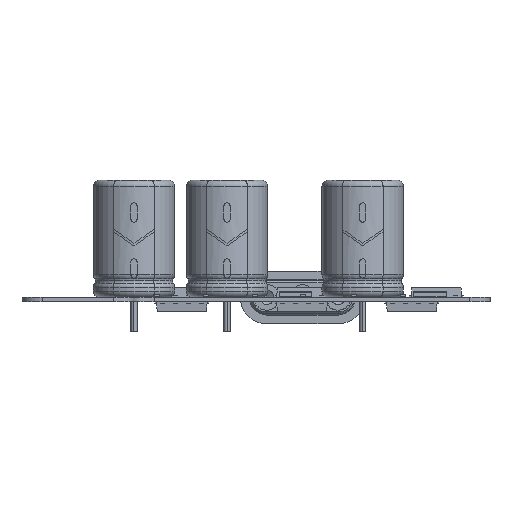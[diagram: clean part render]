
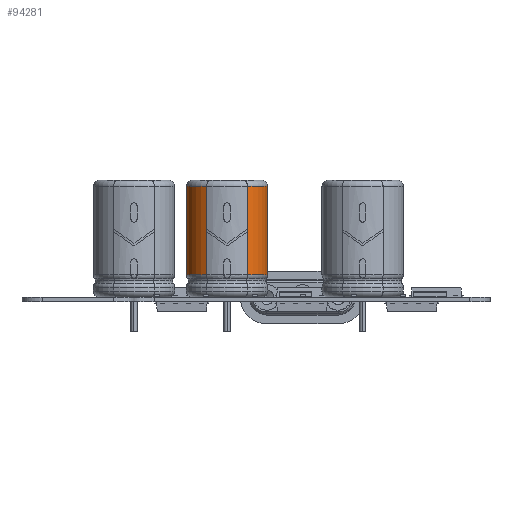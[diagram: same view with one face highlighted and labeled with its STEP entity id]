
A CAD part, left-side view. The second image highlights one B-rep face of the part: STEP entity #94281.
In plain terms, the highlighted cylindrical face has radius 4 mm (diameter 8 mm), a partial arc.
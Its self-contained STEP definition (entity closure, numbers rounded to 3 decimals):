
#6435=CYLINDRICAL_SURFACE('',#98574,4.);
#10262=FACE_OUTER_BOUND('',#14562,.T.);
#14562=EDGE_LOOP('',(#82675,#82676,#82677,#82678));
#23653=LINE('',#166609,#35547);
#23654=LINE('',#166613,#35548);
#35547=VECTOR('',#115021,1.);
#35548=VECTOR('',#115024,1.);
#39675=CIRCLE('',#98575,4.);
#39676=CIRCLE('',#98576,4.);
#46584=VERTEX_POINT('',#166607);
#46585=VERTEX_POINT('',#166608);
#46586=VERTEX_POINT('',#166610);
#46587=VERTEX_POINT('',#166612);
#61133=EDGE_CURVE('',#46584,#46585,#23653,.T.);
#61134=EDGE_CURVE('',#46584,#46586,#39675,.T.);
#61135=EDGE_CURVE('',#46586,#46587,#23654,.T.);
#61136=EDGE_CURVE('',#46585,#46587,#39676,.T.);
#82675=ORIENTED_EDGE('',*,*,#61133,.F.);
#82676=ORIENTED_EDGE('',*,*,#61134,.T.);
#82677=ORIENTED_EDGE('',*,*,#61135,.T.);
#82678=ORIENTED_EDGE('',*,*,#61136,.F.);
#94281=ADVANCED_FACE('',(#10262),#6435,.T.);
#98574=AXIS2_PLACEMENT_3D('',#166606,#115019,#115020);
#98575=AXIS2_PLACEMENT_3D('',#166611,#115022,#115023);
#98576=AXIS2_PLACEMENT_3D('',#166614,#115025,#115026);
#115019=DIRECTION('center_axis',(0.,0.,
-1.));
#115020=DIRECTION('ref_axis',(1.,0.,0.));
#115021=DIRECTION('',(0.,0.,-1.));
#115022=DIRECTION('center_axis',(0.,0.,
-1.));
#115023=DIRECTION('ref_axis',(-1.,0.,0.));
#115024=DIRECTION('',(0.,0.,-1.));
#115025=DIRECTION('center_axis',(0.,0.,
-1.));
#115026=DIRECTION('ref_axis',(-1.,0.,0.));
#166606=CARTESIAN_POINT('Origin',(134.902,61.722,0.12));
#166607=CARTESIAN_POINT('',(131.438,63.722,10.92));
#166608=CARTESIAN_POINT('',(131.438,63.722,2.252));
#166609=CARTESIAN_POINT('',(131.438,63.722,0.12));
#166610=CARTESIAN_POINT('',(131.438,59.722,10.92));
#166611=CARTESIAN_POINT('Origin',(134.902,61.722,10.92));
#166612=CARTESIAN_POINT('',(131.438,59.722,2.252));
#166613=CARTESIAN_POINT('',(131.438,59.722,0.12));
#166614=CARTESIAN_POINT('Origin',(134.902,61.722,2.252));
